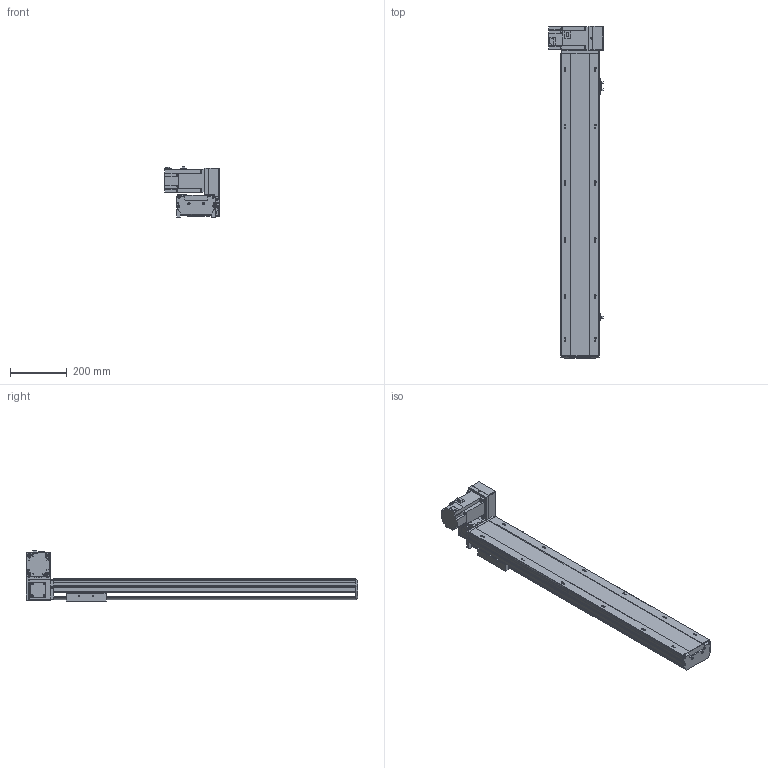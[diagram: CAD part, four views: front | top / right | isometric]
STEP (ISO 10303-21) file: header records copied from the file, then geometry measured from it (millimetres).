
FILE_DESCRIPTION (( 'STEP AP203' ), '1' );
FILE_NAME ('16.STEP', '2020-10-27T11:18:35', ( '' ), ( '' ), 'SwSTEP 2.0', 'SolidWorks 2016', '' );
FILE_SCHEMA (( 'CONFIG_CONTROL_DESIGN' ));
Length unit declared in the file: millimetre
Products named in the file (12): FS-07-T75; BTB14-RD-01; BTB14-RD-24; BTB14-RD-菁釱; BTB14-RD-23; FS-33-T75; BTB14-RD-04; BTB14-RD-06; BTB14-RD-HZ; FS-08-T75; 16; BTB14-RD-T75
Assembly tree (14 placements, depth 2):
  16
    BTB14-RD-菁釱
    BTB14-RD-01
    BTB14-RD-04  x3
    BTB14-RD-06
    BTB14-RD-23  x2
    BTB14-RD-24
    BTB14-RD-HZ
    FS-07-T75
    FS-08-T75
    FS-33-T75
    BTB14-RD-T75
Bounding box: 191.8 x 1168 x 176.1 mm (x, y, z)
Volume: 5908004.9 mm3; surface area: 1205649.6 mm2
Topology: 24 solids, 24 shells, 1774 faces, 4667 edges, 2998 vertices
Faces by surface type: plane 1033, cylinder 482, bspline 127, cone 120, torus 12
Entity records: 52380 total; most frequent: CARTESIAN_POINT 16333, ORIENTED_EDGE 7264, DIRECTION 6970, EDGE_CURVE 3632, LINE 2468, VECTOR 2468, VERTEX_POINT 2376, AXIS2_PLACEMENT_3D 2251
